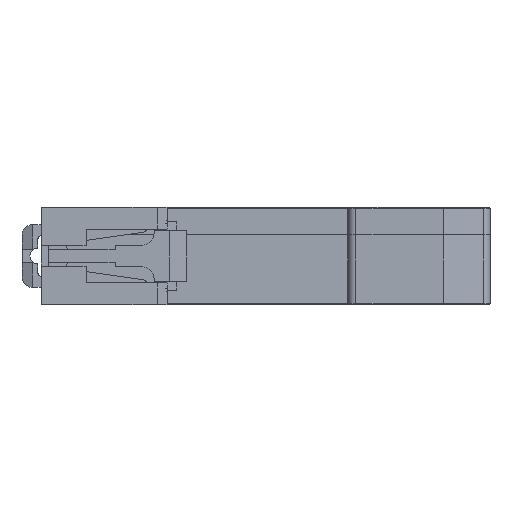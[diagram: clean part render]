
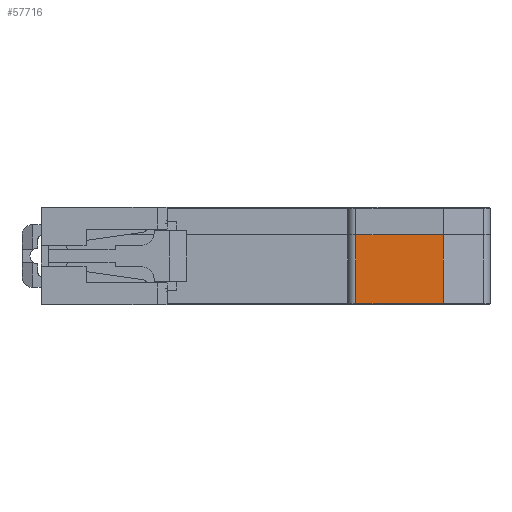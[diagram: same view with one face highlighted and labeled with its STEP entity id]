
A CAD part, front view. The second image highlights one B-rep face of the part: STEP entity #57716.
In plain terms, the highlighted planar face has unit normal (0, -1, 0).
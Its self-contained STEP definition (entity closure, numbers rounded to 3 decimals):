
#1696 = VECTOR ( 'NONE', #55713, 1000. ) ;
#1821 = CARTESIAN_POINT ( 'NONE',  ( 16.5, 0., 17.8 ) ) ;
#1889 = VECTOR ( 'NONE', #31881, 1000. ) ;
#9913 = FACE_OUTER_BOUND ( 'NONE', #30432, .T. ) ;
#10832 = EDGE_CURVE ( 'NONE', #17823, #68007, #15108, .T. ) ;
#14050 = VECTOR ( 'NONE', #82851, 1000. ) ;
#15108 = LINE ( 'NONE', #41752, #14050 ) ;
#15125 = DIRECTION ( 'NONE',  ( 1., 0., 0. ) ) ;
#17823 = VERTEX_POINT ( 'NONE', #72332 ) ;
#18378 = LINE ( 'NONE', #59913, #1889 ) ;
#20362 = ORIENTED_EDGE ( 'NONE', *, *, #52203, .T. ) ;
#21896 = ORIENTED_EDGE ( 'NONE', *, *, #64713, .T. ) ;
#22241 = CARTESIAN_POINT ( 'NONE',  ( 16.5, 0., 17.8 ) ) ;
#22797 = EDGE_CURVE ( 'NONE', #86517, #17823, #38653, .T. ) ;
#22997 = ORIENTED_EDGE ( 'NONE', *, *, #10832, .F. ) ;
#23318 = VERTEX_POINT ( 'NONE', #48896 ) ;
#23742 = AXIS2_PLACEMENT_3D ( 'NONE', #1821, #86193, #43770 ) ;
#30432 = EDGE_LOOP ( 'NONE', ( #42367, #20362, #21896, #22997 ) ) ;
#30628 = PLANE ( 'NONE',  #23742 ) ;
#31881 = DIRECTION ( 'NONE',  ( 1., 0., 0. ) ) ;
#31984 = VECTOR ( 'NONE', #15125, 1000. ) ;
#38653 = LINE ( 'NONE', #80186, #31984 ) ;
#41752 = CARTESIAN_POINT ( 'NONE',  ( 32.495, 0., 17.8 ) ) ;
#42367 = ORIENTED_EDGE ( 'NONE', *, *, #22797, .F. ) ;
#43770 = DIRECTION ( 'NONE',  ( -1., 0., 0. ) ) ;
#48896 = CARTESIAN_POINT ( 'NONE',  ( 16.5, 0., 0.2 ) ) ;
#52203 = EDGE_CURVE ( 'NONE', #86517, #23318, #84126, .T. ) ;
#55713 = DIRECTION ( 'NONE',  ( 0., 0., -1. ) ) ;
#57716 = ADVANCED_FACE ( 'NONE', ( #9913 ), #30628, .F. ) ;
#59913 = CARTESIAN_POINT ( 'NONE',  ( 32.495, 0., 0.2 ) ) ;
#64713 = EDGE_CURVE ( 'NONE', #23318, #68007, #18378, .T. ) ;
#67733 = CARTESIAN_POINT ( 'NONE',  ( 16.5, 0., 12.8 ) ) ;
#68007 = VERTEX_POINT ( 'NONE', #85688 ) ;
#72332 = CARTESIAN_POINT ( 'NONE',  ( 32.495, 0., 12.8 ) ) ;
#80186 = CARTESIAN_POINT ( 'NONE',  ( 0., 0., 12.8 ) ) ;
#82851 = DIRECTION ( 'NONE',  ( 0., 0., -1. ) ) ;
#84126 = LINE ( 'NONE', #22241, #1696 ) ;
#85688 = CARTESIAN_POINT ( 'NONE',  ( 32.495, 0., 0.2 ) ) ;
#86193 = DIRECTION ( 'NONE',  ( 0., 1., 0. ) ) ;
#86517 = VERTEX_POINT ( 'NONE', #67733 ) ;
